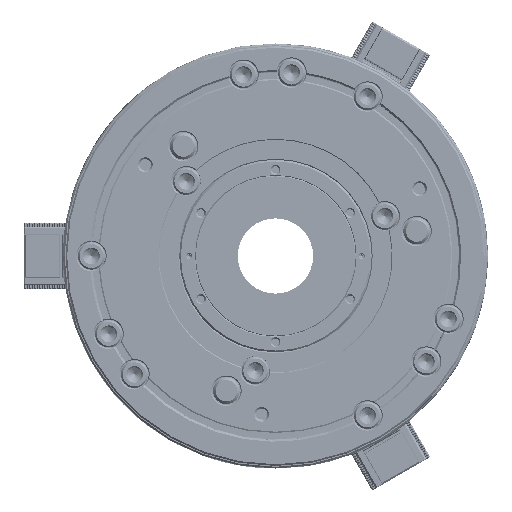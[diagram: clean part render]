
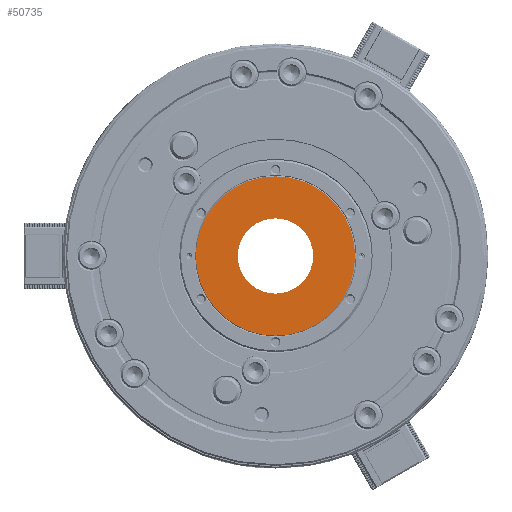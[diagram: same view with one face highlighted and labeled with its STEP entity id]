
A CAD part, left-side view. The second image highlights one B-rep face of the part: STEP entity #50735.
In plain terms, the highlighted planar face has unit normal (-1, 0, 0).
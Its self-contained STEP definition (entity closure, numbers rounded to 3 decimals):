
#1125 = AXIS2_PLACEMENT_3D ( 'NONE', #161910, #74574, #144629 ) ;
#11419 = ORIENTED_EDGE ( 'NONE', *, *, #136285, .T. ) ;
#16229 = CIRCLE ( 'NONE', #104256, 22.5 ) ;
#17704 = EDGE_CURVE ( 'NONE', #74162, #194926, #85548, .T. ) ;
#18511 = ORIENTED_EDGE ( 'NONE', *, *, #17704, .T. ) ;
#18911 = EDGE_CURVE ( 'NONE', #152134, #170166, #16229, .T. ) ;
#21739 = PLANE ( 'NONE',  #1125 ) ;
#24917 = DIRECTION ( 'NONE',  ( -1., 0., 0. ) ) ;
#28612 = CARTESIAN_POINT ( 'NONE',  ( -44., 0., 0. ) ) ;
#39471 = DIRECTION ( 'NONE',  ( 0., 0., 1. ) ) ;
#43170 = CARTESIAN_POINT ( 'NONE',  ( -44., 0., -22.5 ) ) ;
#50422 = DIRECTION ( 'NONE',  ( 0., 0., 1. ) ) ;
#50735 = ADVANCED_FACE ( 'NONE', ( #56214, #179169 ), #21739, .F. ) ;
#51456 = EDGE_LOOP ( 'NONE', ( #18511, #11419 ) ) ;
#56214 = FACE_BOUND ( 'NONE', #170209, .T. ) ;
#57840 = CIRCLE ( 'NONE', #138504, 47.6 ) ;
#73356 = AXIS2_PLACEMENT_3D ( 'NONE', #163531, #218654, #39471 ) ;
#74162 = VERTEX_POINT ( 'NONE', #155573 ) ;
#74574 = DIRECTION ( 'NONE',  ( 1., 0., 0. ) ) ;
#82247 = CARTESIAN_POINT ( 'NONE',  ( -44., 0., 0. ) ) ;
#85548 = CIRCLE ( 'NONE', #147881, 47.6 ) ;
#98122 = ORIENTED_EDGE ( 'NONE', *, *, #188473, .F. ) ;
#103442 = CARTESIAN_POINT ( 'NONE',  ( -44., 0., 0. ) ) ;
#104256 = AXIS2_PLACEMENT_3D ( 'NONE', #28612, #119310, #50422 ) ;
#119310 = DIRECTION ( 'NONE',  ( -1., 0., 0. ) ) ;
#136285 = EDGE_CURVE ( 'NONE', #194926, #74162, #57840, .T. ) ;
#138280 = CARTESIAN_POINT ( 'NONE',  ( -44., 0., 22.5 ) ) ;
#138504 = AXIS2_PLACEMENT_3D ( 'NONE', #103442, #226420, #209188 ) ;
#144629 = DIRECTION ( 'NONE',  ( 0., 0., -1. ) ) ;
#147881 = AXIS2_PLACEMENT_3D ( 'NONE', #82247, #24917, #184596 ) ;
#150389 = CIRCLE ( 'NONE', #73356, 22.5 ) ;
#152134 = VERTEX_POINT ( 'NONE', #138280 ) ;
#155573 = CARTESIAN_POINT ( 'NONE',  ( -44., 0., -47.6 ) ) ;
#161910 = CARTESIAN_POINT ( 'NONE',  ( -44., 47.6, 0. ) ) ;
#163531 = CARTESIAN_POINT ( 'NONE',  ( -44., 0., 0. ) ) ;
#170166 = VERTEX_POINT ( 'NONE', #43170 ) ;
#170209 = EDGE_LOOP ( 'NONE', ( #196486, #98122 ) ) ;
#179169 = FACE_OUTER_BOUND ( 'NONE', #51456, .T. ) ;
#184596 = DIRECTION ( 'NONE',  ( 0., 0., 1. ) ) ;
#188473 = EDGE_CURVE ( 'NONE', #170166, #152134, #150389, .T. ) ;
#194926 = VERTEX_POINT ( 'NONE', #201692 ) ;
#196486 = ORIENTED_EDGE ( 'NONE', *, *, #18911, .F. ) ;
#201692 = CARTESIAN_POINT ( 'NONE',  ( -44., 0., 47.6 ) ) ;
#209188 = DIRECTION ( 'NONE',  ( 0., 0., 1. ) ) ;
#218654 = DIRECTION ( 'NONE',  ( -1., 0., 0. ) ) ;
#226420 = DIRECTION ( 'NONE',  ( -1., 0., 0. ) ) ;
